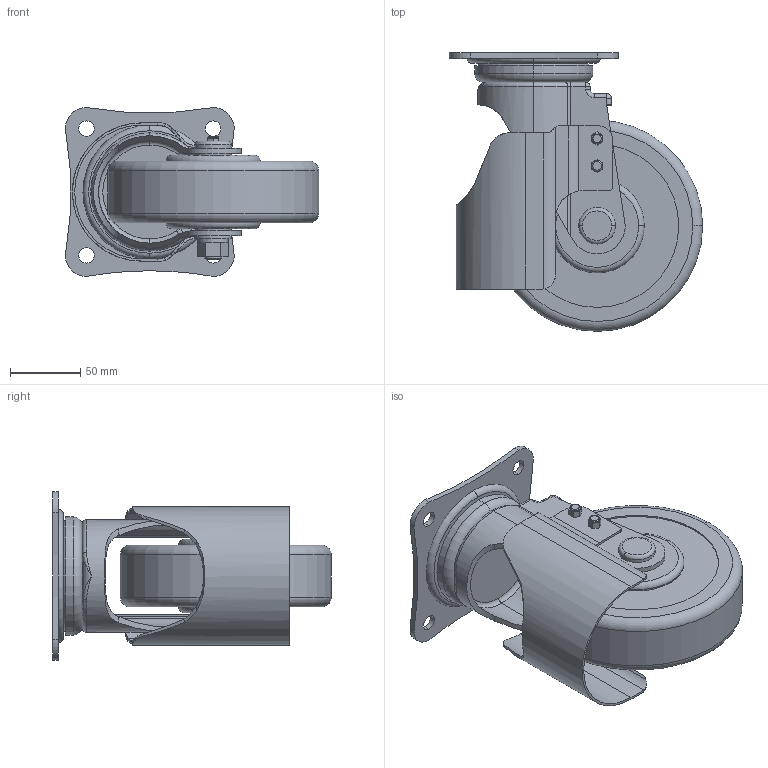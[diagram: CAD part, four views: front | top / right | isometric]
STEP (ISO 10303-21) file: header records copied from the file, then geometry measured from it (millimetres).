
FILE_DESCRIPTION (( 'STEP AP214' ), '1' );
FILE_NAME ('NSFJSAZ150rev0.STEP', '2017-11-29T03:52:37', ( '' ), ( '' ), 'SwSTEP 2.0', 'SolidWorks 2013', '' );
FILE_SCHEMA (( 'AUTOMOTIVE_DESIGN' ));
Length unit declared in the file: millimetre
Products named in the file (6): NSFJSAZ150rev3; NSFJSAZ150rev2; NSFJSAZ150rev0; NSFJSAZ150rev4; NSFJSAZ150rev5; NSFJSAZ150rev1
Assembly tree (5 placements, depth 2):
  NSFJSAZ150rev0
    NSFJSAZ150rev2
    NSFJSAZ150rev3
    NSFJSAZ150rev1
    NSFJSAZ150rev5
    NSFJSAZ150rev4
Bounding box: 180 x 198 x 120 mm (x, y, z)
Volume: 1070494.7 mm3; surface area: 192822.9 mm2
Topology: 5 solids, 5 shells, 266 faces, 644 edges, 406 vertices
Faces by surface type: plane 119, cylinder 103, torus 40, cone 2, bspline 2
Entity records: 8490 total; most frequent: CARTESIAN_POINT 1988, DIRECTION 1376, ORIENTED_EDGE 1284, EDGE_CURVE 642, AXIS2_PLACEMENT_3D 532, VERTEX_POINT 406, LINE 312, VECTOR 312
